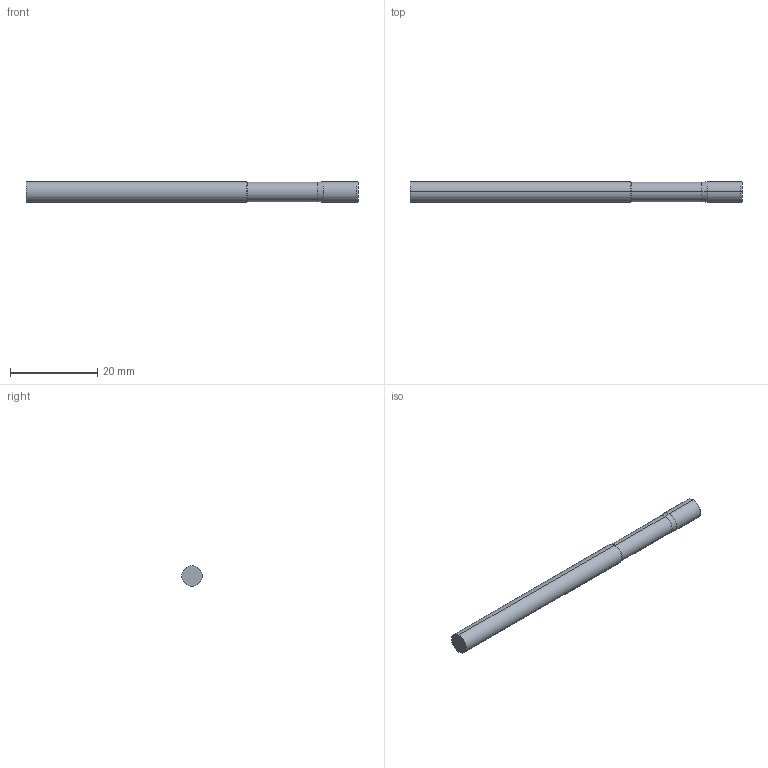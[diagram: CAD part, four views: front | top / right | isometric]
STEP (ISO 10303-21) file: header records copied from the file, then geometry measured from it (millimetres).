
FILE_DESCRIPTION (( 'STEP AP214' ), '1' );
FILE_NAME ('SSIRNL50187-010.STEP', '2025-05-28T13:10:01', ( '' ), ( '' ), 'SwSTEP 2.0', 'SolidWorks 2023', '' );
FILE_SCHEMA (( 'AUTOMOTIVE_DESIGN' ));
Length unit declared in the file: inch
Products named in the file (3): SSIRNL50187-010; SSI5 Imperial SHANK ONLY_SSIRNL50187-010; SSI5 Imperial LOC ONLY_SSIRNL50187-010
Assembly tree (2 placements, depth 2):
  SSIRNL50187-010
    SSI5 Imperial LOC ONLY_SSIRNL50187-010
    SSI5 Imperial SHANK ONLY_SSIRNL50187-010
Bounding box: 76.2 x 4.76 x 4.76 mm (x, y, z)
Volume: 1317.5 mm3; surface area: 1193 mm2
Topology: 2 solids, 2 shells, 18 faces, 32 edges, 18 vertices
Faces by surface type: cylinder 6, cone 6, plane 4, torus 2
Entity records: 612 total; most frequent: DIRECTION 98, CARTESIAN_POINT 73, ORIENTED_EDGE 64, AXIS2_PLACEMENT_3D 43, EDGE_CURVE 32, CIRCLE 20, EDGE_LOOP 18, FACE_OUTER_BOUND 18
